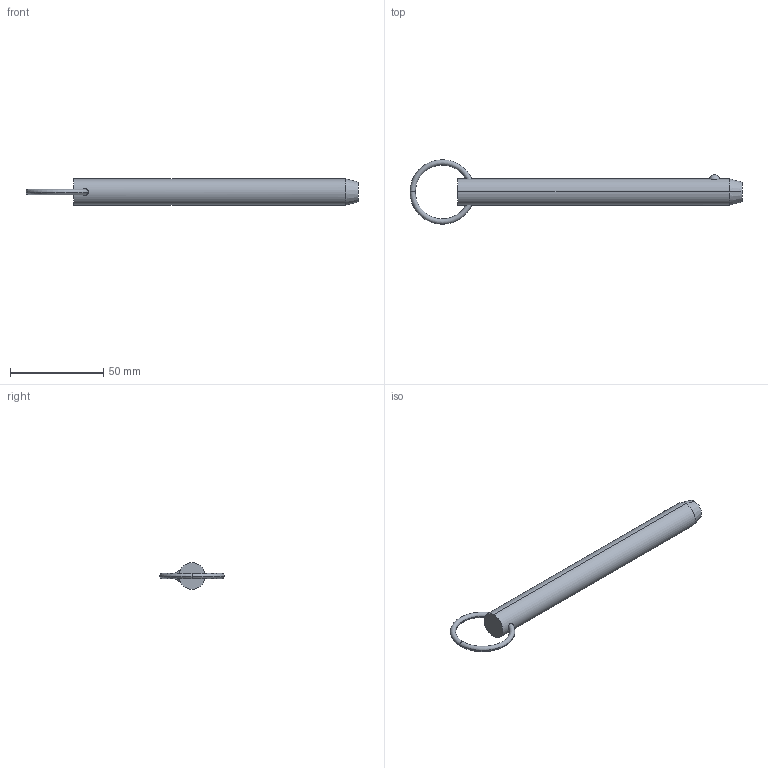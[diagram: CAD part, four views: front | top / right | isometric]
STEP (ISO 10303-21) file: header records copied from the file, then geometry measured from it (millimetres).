
FILE_DESCRIPTION (( 'STEP AP203' ), '1' );
FILE_NAME ('33010.W5650.step', '2024-11-01T10:40:41', ( '' ), ( '' ), 'SwSTEP 2.0', 'SolidWorks 2019', '' );
FILE_SCHEMA (( 'CONFIG_CONTROL_DESIGN' ));
Length unit declared in the file: millimetre
Products named in the file (3): Part1_33010.W5650; 33010.W5650; Part2_33010.W5650
Assembly tree (2 placements, depth 2):
  33010.W5650
    Part1_33010.W5650
    Part2_33010.W5650
Bounding box: 177.9 x 34.59 x 14.22 mm (x, y, z)
Volume: 24477.7 mm3; surface area: 8075.3 mm2
Topology: 2 solids, 2 shells, 16 faces, 31 edges, 18 vertices
Faces by surface type: torus 8, sphere 2, cone 2, cylinder 2, plane 2
Entity records: 875 total; most frequent: CARTESIAN_POINT 232, DIRECTION 88, ORIENTED_EDGE 62, AXIS2_PLACEMENT_3D 42, EDGE_CURVE 31, PERSON_AND_ORGANIZATION 26, CIRCLE 21, LOCAL_TIME 19
